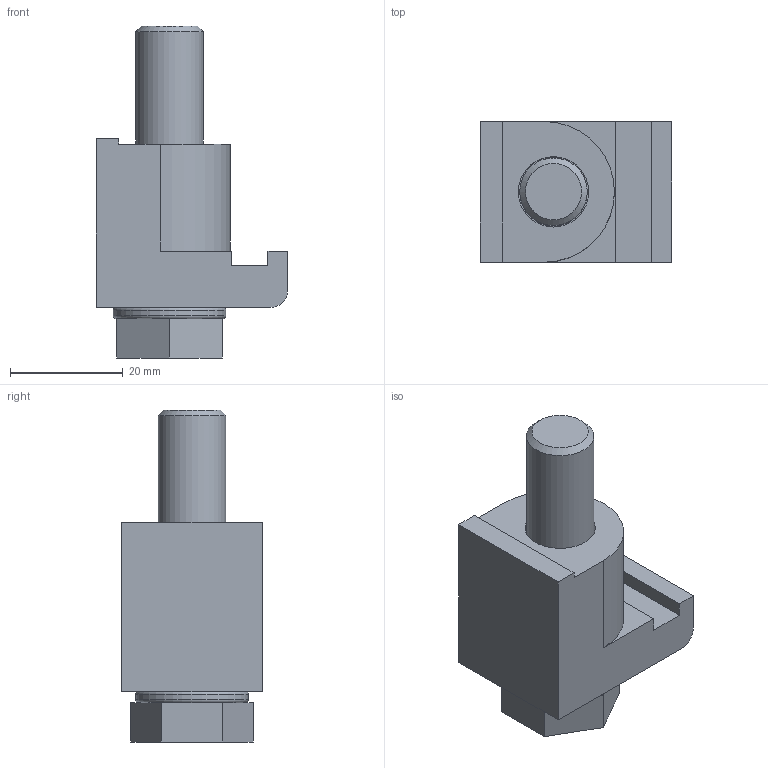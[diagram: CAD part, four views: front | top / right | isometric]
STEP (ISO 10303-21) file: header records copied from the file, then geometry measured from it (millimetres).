
FILE_DESCRIPTION( ( 'Unknown' ), '1' );
FILE_NAME( 'X:/Daten ( aktueller Bestand )/Projekte und Zeichnungen/Solid Edge/STP-Dateien/ISO-K Teile und Zubehör/6017.stp', 'Unknown', ( 'Unknown' ), ( 'Unknown' ), 'PSStep 14.0', 'Unknown', ' ' );
FILE_SCHEMA( ( 'AUTOMOTIVE_DESIGN { 1 0 10303 214 1 1 1 1 }' ) );
Length unit declared in the file: millimetre
Products named in the file (4): Assem1; 6017-1; 6006-3; 6008-2
Assembly tree (3 placements, depth 2):
  Assem1
    6017-1
    6006-3
    6008-2
Bounding box: 34 x 25 x 59 mm (x, y, z)
Volume: 22988.6 mm3; surface area: 9070.2 mm2
Topology: 3 solids, 3 shells, 35 faces, 80 edges, 52 vertices
Faces by surface type: plane 24, cylinder 6, torus 4, cone 1
Full cylindrical faces by diameter (mm): 12 x1, 12.5 x1, 13 x1, 20 x1
Entity records: 1283 total; most frequent: DIRECTION 165, CARTESIAN_POINT 160, ORIENTED_EDGE 140, EDGE_CURVE 70, AXIS2_PLACEMENT_3D 56, LINE 53, VECTOR 53, VERTEX_POINT 51
